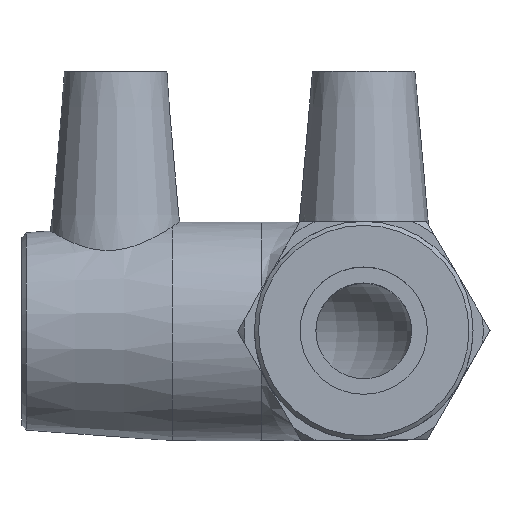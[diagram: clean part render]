
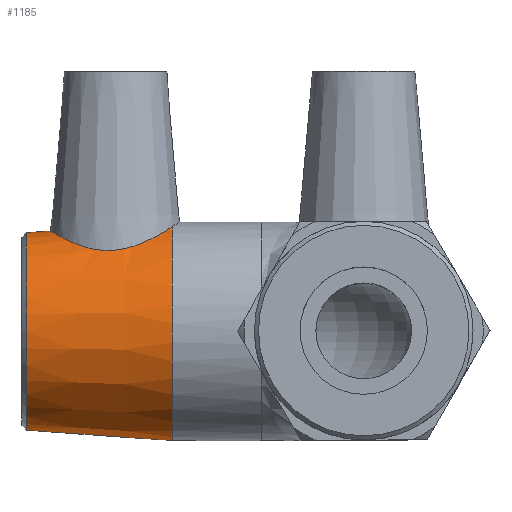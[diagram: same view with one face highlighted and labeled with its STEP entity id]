
A CAD part, top view. The second image highlights one B-rep face of the part: STEP entity #1185.
In plain terms, the highlighted conical face has half-angle 4.16 degrees and reference radius 15.2 mm.
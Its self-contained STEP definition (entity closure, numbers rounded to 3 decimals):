
#17=B_SPLINE_CURVE_WITH_KNOTS('',3,(#1986,#1987,#1988,#1989,#1990,#1991,
#1992,#1993,#1994,#1995,#1996,#1997,#1998,#1999,#2000,#2001,#2002,#2003,
#2004,#2005,#2006,#2007,#2008,#2009,#2010,#2011,#2012,#2013),
 .UNSPECIFIED.,.F.,.F.,(4,2,2,2,2,2,2,2,2,2,2,2,2,4),(0.,0.181,
0.362,0.724,1.086,1.448,1.811,
2.173,2.535,2.716,2.897,3.298,
3.699,3.998),.UNSPECIFIED.);
#18=B_SPLINE_CURVE_WITH_KNOTS('',3,(#2016,#2017,#2018,#2019,#2020,#2021,
#2022,#2023),.UNSPECIFIED.,.F.,.F.,(4,2,2,4),(-1.101,-0.802,
-0.401,0.),.UNSPECIFIED.);
#28=FACE_BOUND('',#256,.T.);
#125=CONICAL_SURFACE('',#1299,15.2,4.16);
#172=FACE_OUTER_BOUND('',#255,.T.);
#255=EDGE_LOOP('',(#939,#940,#941));
#256=EDGE_LOOP('',(#942));
#359=CIRCLE('',#1298,14.444);
#360=CIRCLE('',#1300,16.);
#564=VERTEX_POINT('',#1981);
#565=VERTEX_POINT('',#1984);
#566=VERTEX_POINT('',#1985);
#567=VERTEX_POINT('',#2014);
#703=EDGE_CURVE('',#564,#564,#359,.T.);
#704=EDGE_CURVE('',#565,#566,#17,.T.);
#705=EDGE_CURVE('',#567,#566,#360,.T.);
#706=EDGE_CURVE('',#567,#565,#18,.T.);
#939=ORIENTED_EDGE('',*,*,#704,.T.);
#940=ORIENTED_EDGE('',*,*,#705,.F.);
#941=ORIENTED_EDGE('',*,*,#706,.T.);
#942=ORIENTED_EDGE('',*,*,#703,.F.);
#1185=ADVANCED_FACE('',(#172,#28),#125,.T.);
#1298=AXIS2_PLACEMENT_3D('',#1982,#1563,#1564);
#1299=AXIS2_PLACEMENT_3D('',#1983,#1565,#1566);
#1300=AXIS2_PLACEMENT_3D('',#2015,#1567,#1568);
#1563=DIRECTION('center_axis',(-1.,0.,0.));
#1564=DIRECTION('ref_axis',(0.,-1.,0.));
#1565=DIRECTION('center_axis',(1.,0.,0.));
#1566=DIRECTION('ref_axis',(0.,1.,0.));
#1567=DIRECTION('center_axis',(1.,0.,0.));
#1568=DIRECTION('ref_axis',(0.,0.,-1.));
#1981=CARTESIAN_POINT('',(-49.402,14.444,0.));
#1982=CARTESIAN_POINT('Origin',(-49.402,0.,0.));
#1983=CARTESIAN_POINT('Origin',(-39.,0.,0.));
#1984=CARTESIAN_POINT('',(-36.8,11.848,9.775));
#1985=CARTESIAN_POINT('',(-28.,15.328,-4.588));
#1986=CARTESIAN_POINT('Ctrl Pts',(-36.8,11.848,9.775));
#1987=CARTESIAN_POINT('Ctrl Pts',(-37.402,11.814,9.747));
#1988=CARTESIAN_POINT('Ctrl Pts',(-38.015,11.831,9.658));
#1989=CARTESIAN_POINT('Ctrl Pts',(-39.214,11.962,9.354));
#1990=CARTESIAN_POINT('Ctrl Pts',(-39.802,12.076,9.14));
#1991=CARTESIAN_POINT('Ctrl Pts',(-41.471,12.511,8.334));
#1992=CARTESIAN_POINT('Ctrl Pts',(-42.461,12.921,7.572));
#1993=CARTESIAN_POINT('Ctrl Pts',(-44.016,13.653,5.876));
#1994=CARTESIAN_POINT('Ctrl Pts',(-44.695,14.031,4.816));
#1995=CARTESIAN_POINT('Ctrl Pts',(-45.607,14.558,2.482));
#1996=CARTESIAN_POINT('Ctrl Pts',(-45.838,14.703,1.207));
#1997=CARTESIAN_POINT('Ctrl Pts',(-45.838,14.703,-1.207));
#1998=CARTESIAN_POINT('Ctrl Pts',(-45.607,14.558,-2.482));
#1999=CARTESIAN_POINT('Ctrl Pts',(-44.695,14.031,-4.816));
#2000=CARTESIAN_POINT('Ctrl Pts',(-44.016,13.653,-5.876));
#2001=CARTESIAN_POINT('Ctrl Pts',(-42.461,12.921,-7.572));
#2002=CARTESIAN_POINT('Ctrl Pts',(-41.471,12.511,-8.334));
#2003=CARTESIAN_POINT('Ctrl Pts',(-39.802,12.076,-9.14));
#2004=CARTESIAN_POINT('Ctrl Pts',(-39.214,11.962,-9.354));
#2005=CARTESIAN_POINT('Ctrl Pts',(-38.015,11.831,-9.658));
#2006=CARTESIAN_POINT('Ctrl Pts',(-37.402,11.814,-9.747));
#2007=CARTESIAN_POINT('Ctrl Pts',(-35.467,11.923,-9.837));
#2008=CARTESIAN_POINT('Ctrl Pts',(-34.111,12.263,-9.594));
#2009=CARTESIAN_POINT('Ctrl Pts',(-31.667,13.199,-8.59));
#2010=CARTESIAN_POINT('Ctrl Pts',(-30.573,13.777,-7.827));
#2011=CARTESIAN_POINT('Ctrl Pts',(-29.058,14.651,-6.282));
#2012=CARTESIAN_POINT('Ctrl Pts',(-28.464,15.025,-5.482));
#2013=CARTESIAN_POINT('Ctrl Pts',(-28.,15.328,-4.588));
#2014=CARTESIAN_POINT('',(-28.,15.328,4.588));
#2015=CARTESIAN_POINT('Origin',(-28.,0.,0.));
#2016=CARTESIAN_POINT('Ctrl Pts',(-28.,15.328,4.588));
#2017=CARTESIAN_POINT('Ctrl Pts',(-28.464,15.025,5.482));
#2018=CARTESIAN_POINT('Ctrl Pts',(-29.058,14.651,6.282));
#2019=CARTESIAN_POINT('Ctrl Pts',(-30.573,13.777,7.827));
#2020=CARTESIAN_POINT('Ctrl Pts',(-31.667,13.199,8.59));
#2021=CARTESIAN_POINT('Ctrl Pts',(-34.111,12.263,9.594));
#2022=CARTESIAN_POINT('Ctrl Pts',(-35.467,11.923,9.837));
#2023=CARTESIAN_POINT('Ctrl Pts',(-36.8,11.848,9.775));
